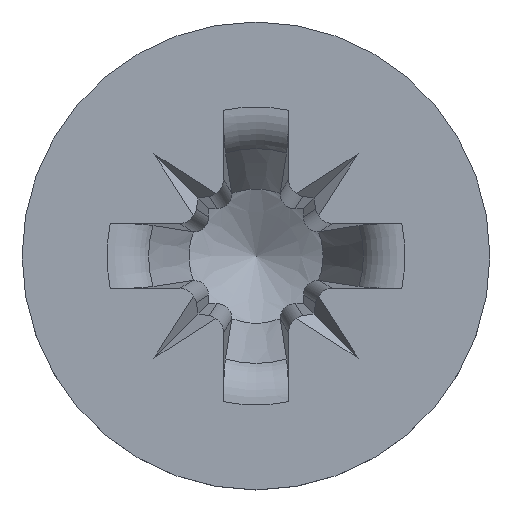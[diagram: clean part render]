
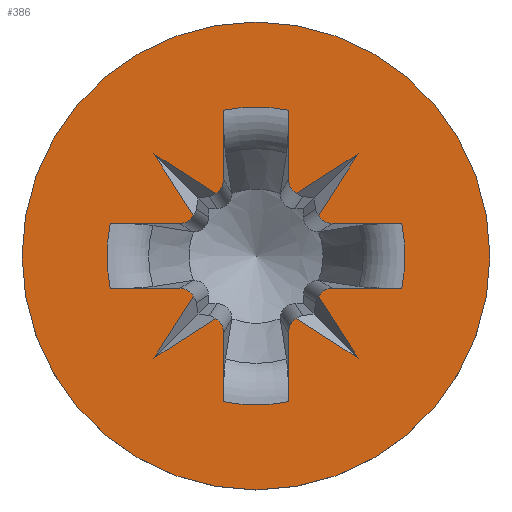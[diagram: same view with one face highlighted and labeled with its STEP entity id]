
A CAD part, top view. The second image highlights one B-rep face of the part: STEP entity #386.
In plain terms, the highlighted planar face has unit normal (0, 0, 1).
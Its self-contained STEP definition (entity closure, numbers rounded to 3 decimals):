
#108=PLANE('',#1907);
#134=ELLIPSE('',#1896,0.101,0.1);
#135=ELLIPSE('',#1897,0.101,0.1);
#136=ELLIPSE('',#1899,0.101,0.1);
#137=ELLIPSE('',#1900,0.101,0.1);
#138=ELLIPSE('',#1902,0.101,0.1);
#139=ELLIPSE('',#1903,0.101,0.1);
#140=ELLIPSE('',#1905,0.101,0.1);
#141=ELLIPSE('',#1906,0.101,0.1);
#150=LINE('',#2559,#257);
#151=LINE('',#2564,#258);
#152=LINE('',#2568,#259);
#153=LINE('',#2570,#260);
#154=LINE('',#2574,#261);
#155=LINE('',#2578,#262);
#156=LINE('',#2582,#263);
#157=LINE('',#2584,#264);
#158=LINE('',#2588,#265);
#159=LINE('',#2592,#266);
#160=LINE('',#2596,#267);
#161=LINE('',#2598,#268);
#162=LINE('',#2602,#269);
#163=LINE('',#2606,#270);
#164=LINE('',#2610,#271);
#165=LINE('',#2612,#272);
#257=VECTOR('',#1991,1.);
#258=VECTOR('',#1994,1.);
#259=VECTOR('',#1997,1.);
#260=VECTOR('',#1998,1.);
#261=VECTOR('',#2001,1.);
#262=VECTOR('',#2004,1.);
#263=VECTOR('',#2007,1.);
#264=VECTOR('',#2008,1.);
#265=VECTOR('',#2011,1.);
#266=VECTOR('',#2014,1.);
#267=VECTOR('',#2017,1.);
#268=VECTOR('',#2018,1.);
#269=VECTOR('',#2021,1.);
#270=VECTOR('',#2024,1.);
#271=VECTOR('',#2027,1.);
#272=VECTOR('',#2028,1.);
#372=FACE_BOUND('',#614,.T.);
#373=FACE_BOUND('',#615,.T.);
#386=ADVANCED_FACE('',(#372,#373),#108,.F.);
#614=EDGE_LOOP('',(#765));
#615=EDGE_LOOP('',(#766,#767,#768,#769,#770,#771,#772,#773,#774,#775,#776,
#777,#778,#779,#780,#781,#782,#783,#784,#785,#786,#787,#788,#789,#790,#791,
#792,#793));
#733=CIRCLE('',#1894,1.5);
#734=CIRCLE('',#1895,0.957);
#735=CIRCLE('',#1898,0.957);
#736=CIRCLE('',#1901,0.957);
#737=CIRCLE('',#1904,0.957);
#765=ORIENTED_EDGE('',*,*,#1491,.T.);
#766=ORIENTED_EDGE('',*,*,#1492,.F.);
#767=ORIENTED_EDGE('',*,*,#1493,.T.);
#768=ORIENTED_EDGE('',*,*,#1494,.F.);
#769=ORIENTED_EDGE('',*,*,#1495,.F.);
#770=ORIENTED_EDGE('',*,*,#1496,.T.);
#771=ORIENTED_EDGE('',*,*,#1497,.T.);
#772=ORIENTED_EDGE('',*,*,#1498,.F.);
#773=ORIENTED_EDGE('',*,*,#1499,.F.);
#774=ORIENTED_EDGE('',*,*,#1500,.T.);
#775=ORIENTED_EDGE('',*,*,#1501,.F.);
#776=ORIENTED_EDGE('',*,*,#1502,.F.);
#777=ORIENTED_EDGE('',*,*,#1503,.T.);
#778=ORIENTED_EDGE('',*,*,#1504,.T.);
#779=ORIENTED_EDGE('',*,*,#1505,.F.);
#780=ORIENTED_EDGE('',*,*,#1506,.F.);
#781=ORIENTED_EDGE('',*,*,#1507,.T.);
#782=ORIENTED_EDGE('',*,*,#1508,.F.);
#783=ORIENTED_EDGE('',*,*,#1509,.F.);
#784=ORIENTED_EDGE('',*,*,#1510,.T.);
#785=ORIENTED_EDGE('',*,*,#1511,.T.);
#786=ORIENTED_EDGE('',*,*,#1512,.F.);
#787=ORIENTED_EDGE('',*,*,#1513,.F.);
#788=ORIENTED_EDGE('',*,*,#1514,.T.);
#789=ORIENTED_EDGE('',*,*,#1515,.F.);
#790=ORIENTED_EDGE('',*,*,#1516,.F.);
#791=ORIENTED_EDGE('',*,*,#1517,.T.);
#792=ORIENTED_EDGE('',*,*,#1518,.T.);
#793=ORIENTED_EDGE('',*,*,#1519,.F.);
#1317=VERTEX_POINT('',#2558);
#1318=VERTEX_POINT('',#2560);
#1319=VERTEX_POINT('',#2561);
#1320=VERTEX_POINT('',#2563);
#1321=VERTEX_POINT('',#2565);
#1322=VERTEX_POINT('',#2567);
#1323=VERTEX_POINT('',#2569);
#1324=VERTEX_POINT('',#2571);
#1325=VERTEX_POINT('',#2573);
#1326=VERTEX_POINT('',#2575);
#1327=VERTEX_POINT('',#2577);
#1328=VERTEX_POINT('',#2579);
#1329=VERTEX_POINT('',#2581);
#1330=VERTEX_POINT('',#2583);
#1331=VERTEX_POINT('',#2585);
#1332=VERTEX_POINT('',#2587);
#1333=VERTEX_POINT('',#2589);
#1334=VERTEX_POINT('',#2591);
#1335=VERTEX_POINT('',#2593);
#1336=VERTEX_POINT('',#2595);
#1337=VERTEX_POINT('',#2597);
#1338=VERTEX_POINT('',#2599);
#1339=VERTEX_POINT('',#2601);
#1340=VERTEX_POINT('',#2603);
#1341=VERTEX_POINT('',#2605);
#1342=VERTEX_POINT('',#2607);
#1343=VERTEX_POINT('',#2609);
#1344=VERTEX_POINT('',#2611);
#1345=VERTEX_POINT('',#2613);
#1491=EDGE_CURVE('',#1317,#1317,#733,.T.);
#1492=EDGE_CURVE('',#1318,#1319,#150,.T.);
#1493=EDGE_CURVE('',#1318,#1320,#734,.T.);
#1494=EDGE_CURVE('',#1321,#1320,#151,.T.);
#1495=EDGE_CURVE('',#1322,#1321,#134,.T.);
#1496=EDGE_CURVE('',#1322,#1323,#152,.T.);
#1497=EDGE_CURVE('',#1323,#1324,#153,.T.);
#1498=EDGE_CURVE('',#1325,#1324,#135,.T.);
#1499=EDGE_CURVE('',#1326,#1325,#154,.T.);
#1500=EDGE_CURVE('',#1326,#1327,#735,.T.);
#1501=EDGE_CURVE('',#1328,#1327,#155,.T.);
#1502=EDGE_CURVE('',#1329,#1328,#136,.T.);
#1503=EDGE_CURVE('',#1329,#1330,#156,.T.);
#1504=EDGE_CURVE('',#1330,#1331,#157,.T.);
#1505=EDGE_CURVE('',#1332,#1331,#137,.T.);
#1506=EDGE_CURVE('',#1333,#1332,#158,.T.);
#1507=EDGE_CURVE('',#1333,#1334,#736,.T.);
#1508=EDGE_CURVE('',#1335,#1334,#159,.T.);
#1509=EDGE_CURVE('',#1336,#1335,#138,.T.);
#1510=EDGE_CURVE('',#1336,#1337,#160,.T.);
#1511=EDGE_CURVE('',#1337,#1338,#161,.T.);
#1512=EDGE_CURVE('',#1339,#1338,#139,.T.);
#1513=EDGE_CURVE('',#1340,#1339,#162,.T.);
#1514=EDGE_CURVE('',#1340,#1341,#737,.T.);
#1515=EDGE_CURVE('',#1342,#1341,#163,.T.);
#1516=EDGE_CURVE('',#1343,#1342,#140,.T.);
#1517=EDGE_CURVE('',#1343,#1344,#164,.T.);
#1518=EDGE_CURVE('',#1344,#1345,#165,.T.);
#1519=EDGE_CURVE('',#1319,#1345,#141,.T.);
#1894=AXIS2_PLACEMENT_3D('',#2557,#1989,#1990);
#1895=AXIS2_PLACEMENT_3D('',#2562,#1992,#1993);
#1896=AXIS2_PLACEMENT_3D('',#2566,#1995,#1996);
#1897=AXIS2_PLACEMENT_3D('',#2572,#1999,#2000);
#1898=AXIS2_PLACEMENT_3D('',#2576,#2002,#2003);
#1899=AXIS2_PLACEMENT_3D('',#2580,#2005,#2006);
#1900=AXIS2_PLACEMENT_3D('',#2586,#2009,#2010);
#1901=AXIS2_PLACEMENT_3D('',#2590,#2012,#2013);
#1902=AXIS2_PLACEMENT_3D('',#2594,#2015,#2016);
#1903=AXIS2_PLACEMENT_3D('',#2600,#2019,#2020);
#1904=AXIS2_PLACEMENT_3D('',#2604,#2022,#2023);
#1905=AXIS2_PLACEMENT_3D('',#2608,#2025,#2026);
#1906=AXIS2_PLACEMENT_3D('',#2614,#2029,#2030);
#1907=AXIS2_PLACEMENT_3D('',#2615,#2031,#2032);
#1989=DIRECTION('',(0.,0.,1.));
#1990=DIRECTION('',(1.,0.,0.));
#1991=DIRECTION('',(0.,1.,0.));
#1992=DIRECTION('',(0.,0.,-1.));
#1993=DIRECTION('',(-1.,0.,0.));
#1994=DIRECTION('',(0.,-1.,0.));
#1995=DIRECTION('',(0.,0.,-1.));
#1996=DIRECTION('',(-0.544,-0.839,0.));
#1997=DIRECTION('',(-0.843,-0.539,0.));
#1998=DIRECTION('',(0.539,0.843,0.));
#1999=DIRECTION('',(0.,0.,-1.));
#2000=DIRECTION('',(-0.839,-0.544,0.));
#2001=DIRECTION('',(1.,0.,0.));
#2002=DIRECTION('',(0.,0.,-1.));
#2003=DIRECTION('',(-1.,0.,0.));
#2004=DIRECTION('',(-1.,0.,0.));
#2005=DIRECTION('',(0.,0.,-1.));
#2006=DIRECTION('',(-0.839,0.544,0.));
#2007=DIRECTION('',(-0.539,0.843,0.));
#2008=DIRECTION('',(0.843,-0.539,0.));
#2009=DIRECTION('',(0.,0.,-1.));
#2010=DIRECTION('',(-0.544,0.839,0.));
#2011=DIRECTION('',(0.,-1.,0.));
#2012=DIRECTION('',(0.,0.,-1.));
#2013=DIRECTION('',(-1.,0.,0.));
#2014=DIRECTION('',(0.,1.,0.));
#2015=DIRECTION('',(0.,0.,-1.));
#2016=DIRECTION('',(0.544,0.839,0.));
#2017=DIRECTION('',(0.843,0.539,0.));
#2018=DIRECTION('',(-0.539,-0.843,0.));
#2019=DIRECTION('',(0.,0.,-1.));
#2020=DIRECTION('',(0.839,0.544,0.));
#2021=DIRECTION('',(-1.,0.,0.));
#2022=DIRECTION('',(0.,0.,-1.));
#2023=DIRECTION('',(-1.,0.,0.));
#2024=DIRECTION('',(1.,0.,0.));
#2025=DIRECTION('',(0.,0.,-1.));
#2026=DIRECTION('',(0.839,-0.544,0.));
#2027=DIRECTION('',(0.539,-0.843,0.));
#2028=DIRECTION('',(-0.843,0.539,0.));
#2029=DIRECTION('',(0.,0.,-1.));
#2030=DIRECTION('',(0.544,-0.839,0.));
#2031=DIRECTION('',(0.,0.,-1.));
#2032=DIRECTION('',(-1.,0.,0.));
#2557=CARTESIAN_POINT('',(0.,0.,1.17));
#2558=CARTESIAN_POINT('',(1.5,0.,1.17));
#2559=CARTESIAN_POINT('',(0.208,1.5,1.17));
#2560=CARTESIAN_POINT('',(0.208,-0.934,1.17));
#2561=CARTESIAN_POINT('',(0.208,-0.489,1.17));
#2562=CARTESIAN_POINT('',(0.,0.,1.17));
#2563=CARTESIAN_POINT('',(-0.208,-0.934,1.17));
#2564=CARTESIAN_POINT('',(-0.208,1.5,1.17));
#2565=CARTESIAN_POINT('',(-0.208,-0.489,1.17));
#2566=CARTESIAN_POINT('',(-0.309,-0.49,1.17));
#2567=CARTESIAN_POINT('',(-0.259,-0.402,1.17));
#2568=CARTESIAN_POINT('',(0.788,0.268,1.17));
#2569=CARTESIAN_POINT('',(-0.655,-0.655,1.17));
#2570=CARTESIAN_POINT('',(0.513,1.172,1.17));
#2571=CARTESIAN_POINT('',(-0.402,-0.259,1.17));
#2572=CARTESIAN_POINT('',(-0.49,-0.309,1.17));
#2573=CARTESIAN_POINT('',(-0.489,-0.208,1.17));
#2574=CARTESIAN_POINT('',(0.,-0.208,1.17));
#2575=CARTESIAN_POINT('',(-0.934,-0.208,1.17));
#2576=CARTESIAN_POINT('',(0.,0.,1.17));
#2577=CARTESIAN_POINT('',(-0.934,0.208,1.17));
#2578=CARTESIAN_POINT('',(0.,0.208,1.17));
#2579=CARTESIAN_POINT('',(-0.489,0.208,1.17));
#2580=CARTESIAN_POINT('',(-0.49,0.309,1.17));
#2581=CARTESIAN_POINT('',(-0.402,0.259,1.17));
#2582=CARTESIAN_POINT('',(-0.848,0.958,1.17));
#2583=CARTESIAN_POINT('',(-0.655,0.655,1.17));
#2584=CARTESIAN_POINT('',(-0.574,0.603,1.17));
#2585=CARTESIAN_POINT('',(-0.259,0.402,1.17));
#2586=CARTESIAN_POINT('',(-0.309,0.49,1.17));
#2587=CARTESIAN_POINT('',(-0.208,0.489,1.17));
#2588=CARTESIAN_POINT('',(-0.208,1.5,1.17));
#2589=CARTESIAN_POINT('',(-0.208,0.934,1.17));
#2590=CARTESIAN_POINT('',(0.,0.,1.17));
#2591=CARTESIAN_POINT('',(0.208,0.934,1.17));
#2592=CARTESIAN_POINT('',(0.208,1.5,1.17));
#2593=CARTESIAN_POINT('',(0.208,0.489,1.17));
#2594=CARTESIAN_POINT('',(0.309,0.49,1.17));
#2595=CARTESIAN_POINT('',(0.259,0.402,1.17));
#2596=CARTESIAN_POINT('',(0.574,0.603,1.17));
#2597=CARTESIAN_POINT('',(0.655,0.655,1.17));
#2598=CARTESIAN_POINT('',(0.848,0.958,1.17));
#2599=CARTESIAN_POINT('',(0.402,0.259,1.17));
#2600=CARTESIAN_POINT('',(0.49,0.309,1.17));
#2601=CARTESIAN_POINT('',(0.489,0.208,1.17));
#2602=CARTESIAN_POINT('',(0.,0.208,1.17));
#2603=CARTESIAN_POINT('',(0.934,0.208,1.17));
#2604=CARTESIAN_POINT('',(0.,0.,1.17));
#2605=CARTESIAN_POINT('',(0.934,-0.208,1.17));
#2606=CARTESIAN_POINT('',(0.,-0.208,1.17));
#2607=CARTESIAN_POINT('',(0.489,-0.208,1.17));
#2608=CARTESIAN_POINT('',(0.49,-0.309,1.17));
#2609=CARTESIAN_POINT('',(0.402,-0.259,1.17));
#2610=CARTESIAN_POINT('',(-0.513,1.172,1.17));
#2611=CARTESIAN_POINT('',(0.655,-0.655,1.17));
#2612=CARTESIAN_POINT('',(-0.788,0.268,1.17));
#2613=CARTESIAN_POINT('',(0.259,-0.402,1.17));
#2614=CARTESIAN_POINT('',(0.309,-0.49,1.17));
#2615=CARTESIAN_POINT('',(0.,1.5,1.17));
